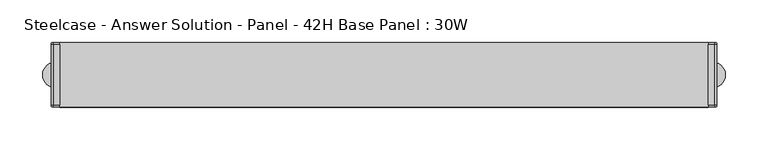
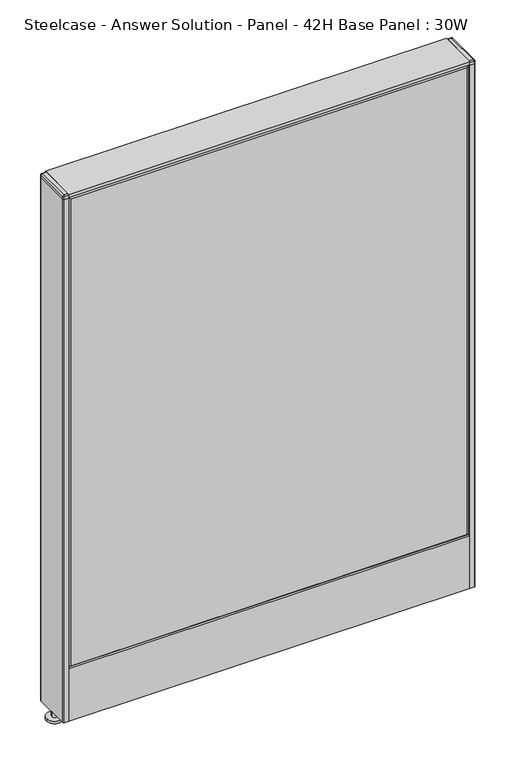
"""IFC4 building model written with IfcOpenShell, lengths in millimetres: furniture geometry, Steelcase - Answer Solution - Panel - 42H Base Panel : 30W."""

from ifc_helpers import new_model, si_unit, point, frame, frame_2d, origin, place, context, project, spatial, polyline, circle_curve, trimmed, segment, composite_curve, outline, extrude, faceted_brep, source, transform, mapped, element, save
from ifc_brep_helpers import plane_surface, spline_surface, advanced_brep


def steelcase_answer_solution_panel_42h_base_panel_30w_e5441445(model_context):
    return source(origin(), model_context, "Body", "SolidModel", [
        extrude(outline(composite_curve([segment(trimmed(circle_curve(frame_2d((386.08, 0.0039657)), 5.08), [point((391.16, 0.0039657))], [point((381.0, 0.0039657))], False, "CARTESIAN"), True, "CONTINUOUS"), segment(trimmed(circle_curve(frame_2d((386.08, 0.0039657)), 5.08), [point((381.0, 0.0039657))], [point((391.16, 0.0039657))], False, "CARTESIAN"), True, "CONTINUOUS")], self_intersect=False)), frame((0.0, 0.0, 5.0799671), z_axis=(0.0, 0.0, 1.0), x_axis=(1.0, 0.0, 0.0)), (0.0, 0.0, 1.0), 10.414),
        extrude(outline(composite_curve([segment(trimmed(circle_curve(frame_2d((386.08, 0.0039657)), 15.24), [point((401.32, 0.0039657))], [point((370.84, 0.0039657))], False, "CARTESIAN"), True, "CONTINUOUS"), segment(trimmed(circle_curve(frame_2d((386.08, 0.0039657)), 15.24), [point((370.84, 0.0039657))], [point((401.32, 0.0039657))], False, "CARTESIAN"), True, "CONTINUOUS")], self_intersect=False)), frame((0.0, 0.0, -3.29e-05), z_axis=(0.0, 0.0, 1.0), x_axis=(1.0, 0.0, 0.0)), (0.0, 0.0, 1.0), 5.08),
        advanced_brep(
        [(388.3406, -35.2766149, 1073.1499671), (388.3406, 35.2845851, 1073.1499671), (381.0, 35.2845851, 1073.1499671), (381.0, -35.2766149, 1073.1499671), (389.2151197, -38.0960149, 1071.2704), (391.16, -36.1511346, 1071.2704), (391.16, 36.2122548, 1071.2704), (389.2682696, 38.1039851, 1071.2704), (381.0, 38.1039851, 1071.2704), (381.0, -38.0960149, 1071.2704)],
        [
            (0, 1),
            (1, 2),
            (2, 3),
            (3, 0),
            (4, 5, circle_curve(frame((389.2151197, -36.1511346, 1071.2704), z_axis=(0.0, 0.0, 1.0), x_axis=(0.0, 1.0, 0.0)), 1.9448803)),
            (5, 0),
            (0, 4),
            (5, 6),
            (6, 1),
            (6, 7, circle_curve(frame((389.2682696, 36.2122548, 1071.2704), z_axis=(0.0, 0.0, 1.0), x_axis=(0.0, 1.0, 0.0)), 1.8917304)),
            (7, 1),
            (7, 8),
            (8, 2),
            (8, 9),
            (9, 3),
            (9, 4),
        ],
        [
            plane_surface(frame((384.6703, 0.0039851, 1073.1499671), z_axis=(0.0, 0.0, 1.0), x_axis=(0.0, 1.0, 0.0))),
            spline_surface(2, 1, [[(389.2151197, -38.0960149, 1071.2704), (388.3406, -35.2766149, 1073.1499671)], [(391.16, -38.09601489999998, 1071.2704), (388.3406, -35.2766149, 1073.1499671)], [(391.16, -36.1511346, 1071.2704), (388.3406, -35.2766149, 1073.1499671)]], [3, 3], [2, 2], [0.0, 1.0], [0.0, 1.0], weights=[[1.0, 1.0], [0.7071067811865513, 0.7071067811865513], [1.0, 1.0]]),
            plane_surface(frame((391.16, 0.0305601, 1071.2704), z_axis=(0.554693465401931, 0.0, 0.832054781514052), x_axis=(0.0, 1.0, 0.0))),
            spline_surface(2, 1, [[(391.16, 36.2122548, 1071.2704), (388.3406, 35.2845851, 1073.1499671)], [(391.16000010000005, 38.103985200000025, 1071.2704), (388.3406, 35.2845851, 1073.1499671)], [(389.2682696, 38.1039851, 1071.2704), (388.3406, 35.2845851, 1073.1499671)]], [3, 3], [2, 2], [0.0, 1.0], [0.0, 1.0], weights=[[1.0, 1.0], [0.7071067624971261, 0.7071067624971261], [1.0, 1.0]]),
            plane_surface(frame((385.1341348, 38.1039851, 1071.2704), z_axis=(0.0, 0.5546934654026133, 0.8320547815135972), x_axis=(-1.0, 0.0, 0.0))),
            plane_surface(frame((381.0, 0.0039851, 1071.2704), z_axis=(-1.0, 0.0, 0.0), x_axis=(0.0, -1.0, 0.0))),
            plane_surface(frame((385.1075599, -38.0960149, 1071.2704), z_axis=(0.0, -0.5546934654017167, 0.8320547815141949), x_axis=(1.0, 0.0, 0.0))),
            plane_surface(frame((387.1338982, 0.0128434, 1071.2704), z_axis=(0.0, 0.0, -1.0), x_axis=(0.0, 1.0, 0.0))),
        ],
        [
            (0, [[1, 2, 3, 4]]),
            (1, [[5, 6, 7]]),
            (2, [[8, 9, -1, -6]]),
            (3, [[10, 11, -9]]),
            (4, [[12, 13, -2, -11]]),
            (5, [[14, 15, -3, -13]]),
            (6, [[16, -7, -4, -15]]),
            (7, [[-16, -14, -12, -10, -8, -5]]),
        ],
    ),
        extrude(outline(composite_curve([segment(polyline([(391.16, 36.2122548), (391.16, -36.1511346)]), True, "CONTINUOUS"), segment(trimmed(circle_curve(frame_2d((389.2151197, -36.1511346)), 1.9448803), [point((391.16, -36.1511346))], [point((389.2151197, -38.0960149))], False, "CARTESIAN"), True, "CONTINUOUS"), segment(polyline([(389.2151197, -38.0960149), (381.0, -38.0960149), (381.0, 38.1039851), (389.2682696, 38.1039851)]), True, "CONTINUOUS"), segment(trimmed(circle_curve(frame_2d((389.2682696, 36.2122548)), 1.8917304), [point((389.2682696, 38.1039851))], [point((391.16, 36.2122548))], False, "CARTESIAN"), True, "CONTINUOUS")], self_intersect=False)), frame((0.0, 0.0, 1065.8348), z_axis=(0.0, 0.0, 1.0), x_axis=(1.0, 0.0, 0.0)), (0.0, 0.0, 1.0), 5.4356),
        extrude(outline(composite_curve([segment(polyline([(391.16, 36.2318909), (391.16, -36.15537)]), True, "CONTINUOUS"), segment(trimmed(circle_curve(frame_2d((389.2193552, -36.15537)), 1.9406448), [point((391.16, -36.15537))], [point((389.2193552, -38.0960149))], False, "CARTESIAN"), True, "CONTINUOUS"), segment(polyline([(389.2193552, -38.0960149), (381.0, -38.0960149), (381.0, 38.1039851), (389.2879058, 38.1039851)]), True, "CONTINUOUS"), segment(trimmed(circle_curve(frame_2d((389.2879058, 36.2318909)), 1.8720942), [point((389.2879058, 38.1039851))], [point((391.16, 36.2318909))], False, "CARTESIAN"), True, "CONTINUOUS")], self_intersect=False)), frame((0.0, 0.0, 15.4939671), z_axis=(0.0, 0.0, 1.0), x_axis=(1.0, 0.0, 0.0)), (0.0, 0.0, 1.0), 1050.3408329),
        extrude(outline(composite_curve([segment(trimmed(circle_curve(frame_2d((-386.08, 0.0039657)), 5.08), [point((-391.16, 0.0039657))], [point((-381.0, 0.0039657))], False, "CARTESIAN"), True, "CONTINUOUS"), segment(trimmed(circle_curve(frame_2d((-386.08, 0.0039657)), 5.08), [point((-381.0, 0.0039657))], [point((-391.16, 0.0039657))], False, "CARTESIAN"), True, "CONTINUOUS")], self_intersect=False)), frame((0.0, 0.0, 5.0799671), z_axis=(0.0, 0.0, 1.0), x_axis=(1.0, 0.0, 0.0)), (0.0, 0.0, 1.0), 10.414),
        extrude(outline(composite_curve([segment(trimmed(circle_curve(frame_2d((-386.08, 0.0039657)), 15.24), [point((-401.32, 0.0039657))], [point((-370.84, 0.0039657))], False, "CARTESIAN"), True, "CONTINUOUS"), segment(trimmed(circle_curve(frame_2d((-386.08, 0.0039657)), 15.24), [point((-370.84, 0.0039657))], [point((-401.32, 0.0039657))], False, "CARTESIAN"), True, "CONTINUOUS")], self_intersect=False)), frame((0.0, 0.0, -3.29e-05), z_axis=(0.0, 0.0, 1.0), x_axis=(1.0, 0.0, 0.0)), (0.0, 0.0, 1.0), 5.08),
        advanced_brep(
        [(-388.3406, -35.2766149, 1073.1499671), (-381.0, -35.2766149, 1073.1499671), (-381.0, 35.2845851, 1073.1499671), (-388.3406, 35.2845851, 1073.1499671), (-389.2151197, -38.0960149, 1071.2704), (-391.16, -36.1511346, 1071.2704), (-391.16, 36.2122548, 1071.2704), (-389.2682696, 38.1039851, 1071.2704), (-381.0, 38.1039851, 1071.2704), (-381.0, -38.0960149, 1071.2704)],
        [
            (0, 1),
            (1, 2),
            (2, 3),
            (3, 0),
            (4, 0),
            (0, 5),
            (5, 4, circle_curve(frame((-389.2151197, -36.1511346, 1071.2704), z_axis=(0.0, 0.0, 1.0), x_axis=(0.0, 1.0, 0.0)), 1.9448803)),
            (3, 6),
            (6, 5),
            (3, 7),
            (7, 6, circle_curve(frame((-389.2682696, 36.2122548, 1071.2704), z_axis=(0.0, 0.0, 1.0), x_axis=(0.0, 1.0, 0.0)), 1.8917304)),
            (2, 8),
            (8, 7),
            (1, 9),
            (9, 8),
            (4, 9),
        ],
        [
            plane_surface(frame((-384.6703, 0.0039851, 1073.1499671), z_axis=(0.0, 0.0, 1.0), x_axis=(0.0, 1.0, 0.0))),
            spline_surface(1, 2, [[(-389.2151197, -38.0960149, 1071.2704), (-391.16, -38.09601489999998, 1071.2704), (-391.16, -36.1511346, 1071.2704)], [(-388.3406, -35.2766149, 1073.1499671), (-388.3406, -35.2766149, 1073.1499671), (-388.3406, -35.2766149, 1073.1499671)]], [2, 2], [3, 3], [0.0, 1.0], [0.0, 1.0], weights=[[1.0, 0.7071067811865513, 1.0], [1.0, 0.7071067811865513, 1.0]]),
            plane_surface(frame((-391.16, 0.0305601, 1071.2704), z_axis=(-0.554693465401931, 0.0, 0.832054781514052), x_axis=(0.0, 1.0, 0.0))),
            spline_surface(1, 2, [[(-391.16, 36.2122548, 1071.2704), (-391.16000010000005, 38.103985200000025, 1071.2704), (-389.2682696, 38.1039851, 1071.2704)], [(-388.3406, 35.2845851, 1073.1499671), (-388.3406, 35.2845851, 1073.1499671), (-388.3406, 35.2845851, 1073.1499671)]], [2, 2], [3, 3], [0.0, 1.0], [0.0, 1.0], weights=[[1.0, 0.7071067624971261, 1.0], [1.0, 0.7071067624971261, 1.0]]),
            plane_surface(frame((-385.1341348, 38.1039851, 1071.2704), z_axis=(0.0, 0.5546934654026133, 0.8320547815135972), x_axis=(1.0, 0.0, 0.0))),
            plane_surface(frame((-381.0, 0.0039851, 1071.2704), z_axis=(1.0, 0.0, 0.0), x_axis=(0.0, -1.0, 0.0))),
            plane_surface(frame((-385.1075599, -38.0960149, 1071.2704), z_axis=(0.0, -0.5546934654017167, 0.8320547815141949), x_axis=(-1.0, 0.0, 0.0))),
            plane_surface(frame((-387.1338982, 0.0128434, 1071.2704), z_axis=(0.0, 0.0, -1.0), x_axis=(0.0, 1.0, 0.0))),
        ],
        [
            (0, [[1, 2, 3, 4]]),
            (1, [[5, 6, 7]]),
            (2, [[-6, -4, 8, 9]]),
            (3, [[-8, 10, 11]]),
            (4, [[-10, -3, 12, 13]]),
            (5, [[-12, -2, 14, 15]]),
            (6, [[-14, -1, -5, 16]]),
            (7, [[-7, -9, -11, -13, -15, -16]]),
        ],
    ),
        extrude(outline(composite_curve([segment(trimmed(circle_curve(frame_2d((-389.2682696, 36.2122548)), 1.8917304), [point((-391.16, 36.2122548))], [point((-389.2682696, 38.1039851))], False, "CARTESIAN"), True, "CONTINUOUS"), segment(polyline([(-389.2682696, 38.1039851), (-381.0, 38.1039851), (-381.0, -38.0960149), (-389.2151197, -38.0960149)]), True, "CONTINUOUS"), segment(trimmed(circle_curve(frame_2d((-389.2151197, -36.1511346)), 1.9448803), [point((-389.2151197, -38.0960149))], [point((-391.16, -36.1511346))], False, "CARTESIAN"), True, "CONTINUOUS"), segment(polyline([(-391.16, -36.1511346), (-391.16, 36.2122548)]), True, "CONTINUOUS")], self_intersect=False)), frame((0.0, 0.0, 1065.8348), z_axis=(0.0, 0.0, 1.0), x_axis=(1.0, 0.0, 0.0)), (0.0, 0.0, 1.0), 5.4356),
        extrude(outline(composite_curve([segment(trimmed(circle_curve(frame_2d((-389.2879058, 36.2318909)), 1.8720942), [point((-391.16, 36.2318909))], [point((-389.2879058, 38.1039851))], False, "CARTESIAN"), True, "CONTINUOUS"), segment(polyline([(-389.2879058, 38.1039851), (-381.0, 38.1039851), (-381.0, -38.0960149), (-389.2193552, -38.0960149)]), True, "CONTINUOUS"), segment(trimmed(circle_curve(frame_2d((-389.2193552, -36.15537)), 1.9406448), [point((-389.2193552, -38.0960149))], [point((-391.16, -36.15537))], False, "CARTESIAN"), True, "CONTINUOUS"), segment(polyline([(-391.16, -36.15537), (-391.16, 36.2318909)]), True, "CONTINUOUS")], self_intersect=False)), frame((0.0, 0.0, 15.4939671), z_axis=(0.0, 0.0, 1.0), x_axis=(1.0, 0.0, 0.0)), (0.0, 0.0, 1.0), 1050.3408329),
        faceted_brep([(-376.174, 38.1635011, 1061.974), (376.174, 38.1635011, 1061.974), (376.174, 38.1635011, 125.476), (-376.174, 38.1635011, 125.476), (-381.0, 33.3375011, 1066.8), (-381.0, 33.3375011, 120.65), (381.0, 33.3375011, 120.65), (381.0, 33.3375011, 1066.8)], [[[0, 1, 2, 3]], [[4, 5, 6, 7]], [[4, 7, 1, 0]], [[7, 6, 2, 1]], [[6, 5, 3, 2]], [[5, 4, 0, 3]]]),
        faceted_brep([(376.174, -38.1635011, 1061.974), (-376.174, -38.1635011, 1061.974), (-376.174, -38.1635011, 125.476), (376.174, -38.1635011, 125.476), (381.0, -33.3375011, 1066.8), (381.0, -33.3375011, 120.65), (-381.0, -33.3375011, 120.65), (-381.0, -33.3375011, 1066.8)], [[[0, 1, 2, 3]], [[4, 5, 6, 7]], [[4, 7, 1, 0]], [[7, 6, 2, 1]], [[6, 5, 3, 2]], [[5, 4, 0, 3]]]),
        extrude(outline(polyline([(381.0, 38.1000194), (381.0, -38.1000194), (-381.0, -38.1000194), (-381.0, 38.1000194), (381.0, 38.1000194)])), frame((0.0, 0.0, 1066.8), z_axis=(0.0, 0.0, 1.0), x_axis=(1.0, 0.0, 0.0)), (0.0, 0.0, 1.0), 6.35),
        extrude(outline(polyline([(25.4000011, 119.8575157), (25.4000011, 120.65), (38.1000194, 120.65), (38.1000194, 15.494), (37.3075215, 15.494), (37.3075215, 119.8575157), (25.4000011, 119.8575157)])), frame((-381.0, 0.0, 0.0), z_axis=(1.0, 0.0, 0.0), x_axis=(0.0, 1.0, 0.0)), (0.0, 0.0, 1.0), 762.0),
        extrude(outline(polyline([(-25.4000011, 119.8575157), (-37.3075215, 119.8575157), (-37.3075215, 15.494), (-38.1000194, 15.494), (-38.1000194, 120.65), (-25.4000011, 120.65), (-25.4000011, 119.8575157)])), frame((-381.0, 0.0, 0.0), z_axis=(1.0, 0.0, 0.0), x_axis=(0.0, 1.0, 0.0)), (0.0, 0.0, 1.0), 762.0),
    ])


if __name__ == "__main__":
    model = new_model("IFC4")
    model_context = context("Model", 3, world=origin())
    ifc_project = project(units=[si_unit("LENGTHUNIT", "METRE", prefix="MILLI")], contexts=[model_context])
    site = spatial("IfcSite", under=ifc_project)
    building = spatial("IfcBuilding", under=site)
    placement = place(None, origin())
    steelcase_answer_solution_panel_42h_base_panel_30w_shape = steelcase_answer_solution_panel_42h_base_panel_30w_e5441445(model_context)
    element("IfcFurniture", 1, ObjectType="Steelcase - Answer Solution - Panel - 42H Base Panel : 30W", at=placement, inside=building, context=model_context, shape_type="MappedRepresentation", body=[
        mapped(steelcase_answer_solution_panel_42h_base_panel_30w_shape, transform((0.0, 0.0, 0.0), x_axis=(1.0, 0.0, 0.0), y_axis=(0.0, 1.0, 0.0), z_axis=(0.0, 0.0, 1.0))),
    ])
    save(model, "model.ifc")
